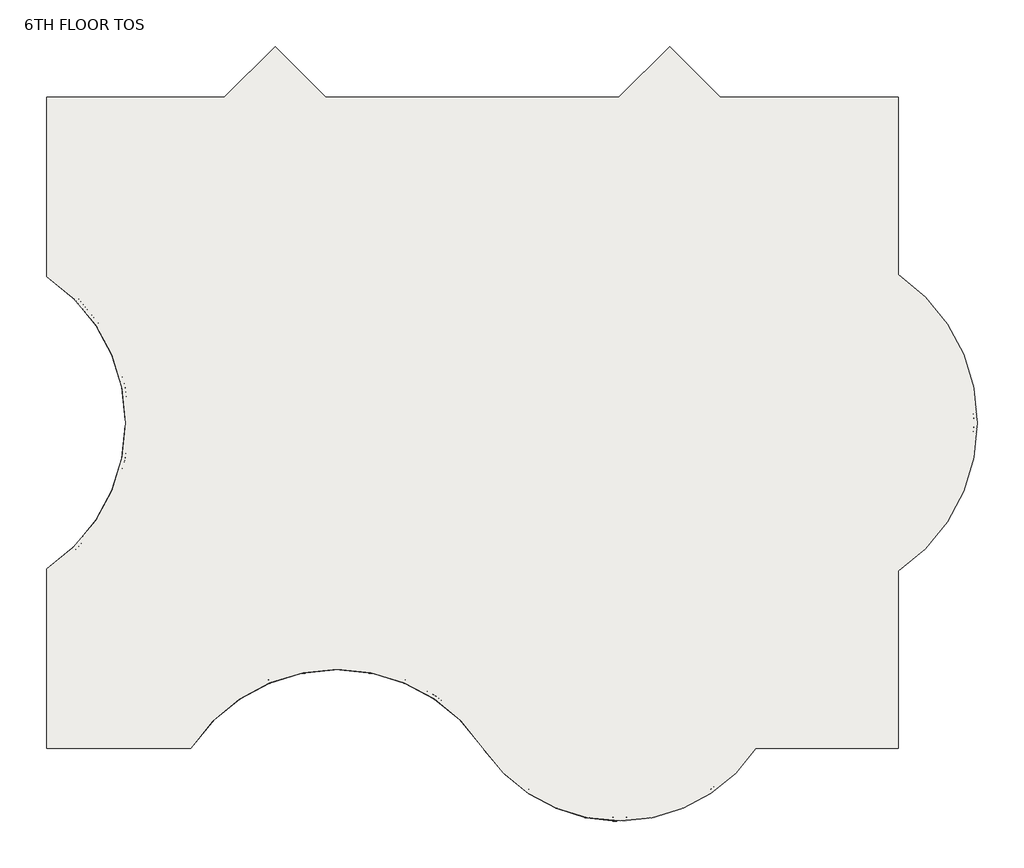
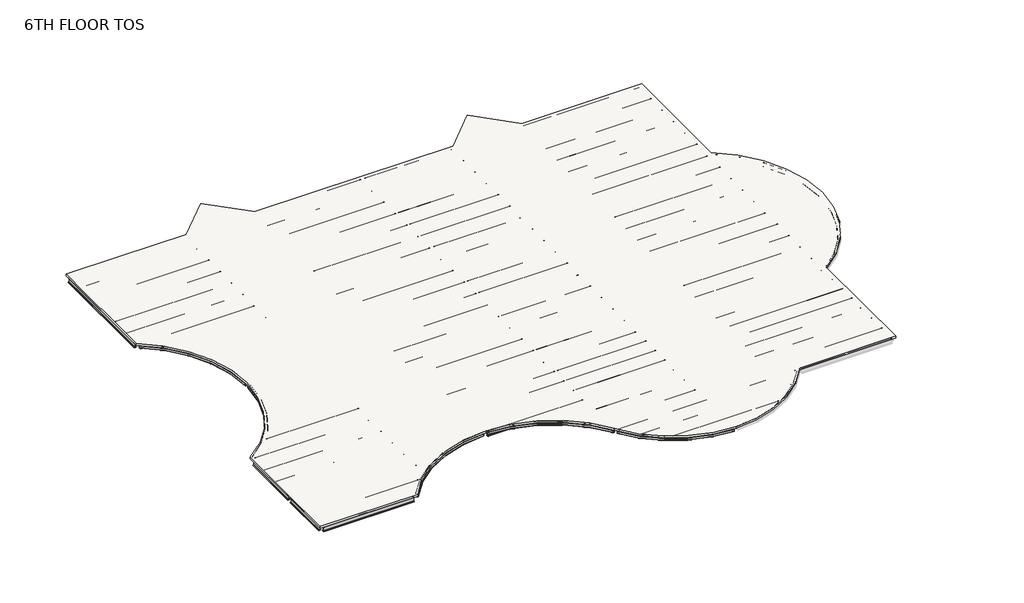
# One storey, part 1 of 2: 86 beams, 1 slab.
"""IFC4 building model written with IfcOpenShell, lengths in millimetres."""

from ifc_helpers import new_model, si_unit, frame, origin, place, context, project, spatial, polyline, circle_curve, transform, mapped, element, save
from ifc_brep_helpers import plane_surface, cylinder_surface, revolved_surface, advanced_brep
from components import m_hss_square_hss203_2x203_2x9_5_914ff4eb, m_hss_square_hss203_2x203_2x9_5_0e3d8e6e, m_hss_square_hss203_2x203_2x9_5_16dc1c03, m_hss_square_hss203_2x203_2x9_5_18346204, m_hss_square_hss203_2x203_2x9_5_d5f1e8c4, ub_universal_beams_ub254x102x28_4e7f3726, ub_universal_beams_ub305x165x40_c4d0385b, ub_universal_beams_ub305x165x40_d3abc31d, ub_universal_beams_ub305x165x40_0c73730f, ub_universal_beams_ub305x165x40_2a963f0c, ub_universal_beams_ub305x165x40_0a5f2f96, ub_universal_beams_ub305x165x40_d1f7c369, ub_universal_beams_ub305x165x40_83d7b7d5, ub_universal_beams_ub305x165x40_729a4ea5, ub_universal_beams_ub305x165x40_71dfa851, ub_universal_beams_ub305x165x40_619b5398, ub_universal_beams_ub305x165x40_c3492db1, ub_universal_beams_ub305x165x40_8f1c350d, ub_universal_beams_ub305x165x40_3afb5f90, ub_universal_beams_ub305x165x40_767d1929, ub_universal_beams_ub305x165x40_5941ca45, ub_universal_beams_ub356x171x51_ef72dcdd, ub_universal_beams_ub356x171x51_7f80702c, ub_universal_beams_ub356x171x51_dfc36663, ub_universal_beams_ub356x171x51_405a853e, ub_universal_beams_ub356x171x51_e47b7055, ub_universal_beams_ub356x171x51_e97f8d2e, ub_universal_beams_ub356x171x51_11d6b780, ub_universal_beams_ub356x171x51_76b2d20b, ub_universal_beams_ub356x171x51_145ecd4b, ub_universal_beams_ub356x171x51_c7dff8d2, ub_universal_beams_ub356x171x51_834c6e34, ub_universal_beams_ub356x171x51_a38b99de, ub_universal_beams_ub356x171x51_d8f4cdde, ub_universal_beams_ub356x171x51_8094f821, ub_universal_beams_ub356x171x51_e661f2e4, ub_universal_beams_ub356x171x51_3ee91673, ub_universal_beams_ub356x171x51_a871b283, ub_universal_beams_ub356x171x51_741bae58

model = new_model("IFC4")

# Units and contexts
model_context = context("Model", 3, world=origin())
ifc_project = project(units=[si_unit("LENGTHUNIT", "METRE", prefix="MILLI")], contexts=[model_context])

# Site, building, storey
site = spatial("IfcSite", under=ifc_project)
building = spatial("IfcBuilding", under=site)
storey = spatial("IfcBuildingStorey", under=building, Name="6TH FLOOR TOS", Elevation=27279.6)

# Beams
placement = place(None, origin())
m_hss_square_hss203_2x203_2x9_5_shape = m_hss_square_hss203_2x203_2x9_5_914ff4eb(model_context)
element("IfcBeam", 1, ObjectType="M_HSS Square : HSS203.2X203.2X9.5", at=placement, inside=storey, context=model_context, shape_type="MappedRepresentation", body=[
    mapped(m_hss_square_hss203_2x203_2x9_5_shape, transform((22710.575, 155.575, 27178.1), x_axis=(-0.552849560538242, 0.8332810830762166, 0.0), y_axis=(-0.8332810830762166, -0.552849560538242, 0.0), z_axis=(0.0, 0.0, 1.0))),
])
m_hss_square_hss203_2x203_2x9_5_2_shape = m_hss_square_hss203_2x203_2x9_5_0e3d8e6e(model_context)
element("IfcBeam", 2, ObjectType="M_HSS Square : HSS203.2X203.2X9.5", at=placement, inside=storey, context=model_context, shape_type="MappedRepresentation", body=[
    mapped(m_hss_square_hss203_2x203_2x9_5_2_shape, transform((155.575, 9299.575, 27178.1), x_axis=(0.8332810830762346, 0.5528495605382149, 0.0), y_axis=(-0.5528495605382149, 0.8332810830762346, 0.0), z_axis=(0.0, 0.0, 1.0))),
])
m_hss_square_hss203_2x203_2x9_5_3_shape = m_hss_square_hss203_2x203_2x9_5_16dc1c03(model_context)
element("IfcBeam", 3, ObjectType="M_HSS Square : HSS203.2X203.2X9.5", at=placement, inside=storey, context=model_context, shape_type="MappedRepresentation", body=[
    mapped(m_hss_square_hss203_2x203_2x9_5_3_shape, transform((155.575, 24539.575, 27178.1), x_axis=(0.8332810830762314, -0.5528495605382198, 0.0), y_axis=(0.5528495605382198, 0.8332810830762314, 0.0), z_axis=(0.0, 0.0, 1.0))),
])
m_hss_square_hss203_2x203_2x9_5_4_shape = m_hss_square_hss203_2x203_2x9_5_18346204(model_context)
element("IfcBeam", 4, ObjectType="M_HSS Square : HSS203.2X203.2X9.5", at=placement, inside=storey, context=model_context, shape_type="MappedRepresentation", body=[
    mapped(m_hss_square_hss203_2x203_2x9_5_4_shape, transform((29734.7266693, -3601.398624, 27178.1), x_axis=(-0.9999968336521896, -0.0025164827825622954, 0.0), y_axis=(0.0025164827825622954, -0.9999968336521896, 0.0), z_axis=(0.0, 0.0, 1.0))),
])
m_hss_square_hss203_2x203_2x9_5_5_shape = m_hss_square_hss203_2x203_2x9_5_d5f1e8c4(model_context)
element("IfcBeam", 5, ObjectType="M_HSS Square : HSS203.2X203.2X9.5", at=placement, inside=storey, context=model_context, shape_type="MappedRepresentation", body=[
    mapped(m_hss_square_hss203_2x203_2x9_5_5_shape, transform((15096.4572854, 4244.5731081, 27178.1), x_axis=(-0.9999997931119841, 0.0006432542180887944, 0.0), y_axis=(-0.0006432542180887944, -0.9999997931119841, 0.0), z_axis=(0.0, 0.0, 1.0))),
])
ub_universal_beams_ub254x102x28_shape = ub_universal_beams_ub254x102x28_4e7f3726(model_context)
element("IfcBeam", 6, ObjectType="UB-Universal Beams : UB254x102x28", at=placement, inside=storey, context=model_context, shape_type="MappedRepresentation", body=[
    mapped(ub_universal_beams_ub254x102x28_shape, transform((9299.575, 3210.915913, 27149.4), x_axis=(0.0, -1.0, 0.0), y_axis=(1.0, 0.0, 0.0), z_axis=(0.0, 0.0, 1.0))),
])
ub_universal_beams_ub305x165x40_shape = ub_universal_beams_ub305x165x40_c4d0385b(model_context)
element("IfcBeam", 7, ObjectType="UB-Universal Beams : UB305x165x40", at=placement, inside=storey, context=model_context, shape_type="MappedRepresentation", body=[
    mapped(ub_universal_beams_ub305x165x40_shape, transform((4727.575, 30635.575, 27127.9), x_axis=(1.0, 0.0, 0.0), y_axis=(0.0, 1.0, 0.0), z_axis=(0.0, 0.0, 1.0))),
])
element("IfcBeam", 8, ObjectType="UB-Universal Beams : UB305x165x40", at=placement, inside=storey, context=model_context, shape_type="MappedRepresentation", body=[
    mapped(ub_universal_beams_ub305x165x40_shape, transform((4727.575, 29111.575, 27127.9), x_axis=(1.0, 0.0, 0.0), y_axis=(0.0, 1.0, 0.0), z_axis=(0.0, 0.0, 1.0))),
])
element("IfcBeam", 9, ObjectType="UB-Universal Beams : UB305x165x40", at=placement, inside=storey, context=model_context, shape_type="MappedRepresentation", body=[
    mapped(ub_universal_beams_ub305x165x40_shape, transform((4727.575, 27587.575, 27127.9), x_axis=(1.0, 0.0, 0.0), y_axis=(0.0, 1.0, 0.0), z_axis=(0.0, 0.0, 1.0))),
])
element("IfcBeam", 10, ObjectType="UB-Universal Beams : UB305x165x40", at=placement, inside=storey, context=model_context, shape_type="MappedRepresentation", body=[
    mapped(ub_universal_beams_ub305x165x40_shape, transform((4727.575, 26063.575, 27127.9), x_axis=(1.0, 0.0, 0.0), y_axis=(0.0, 1.0, 0.0), z_axis=(0.0, 0.0, 1.0))),
])
element("IfcBeam", 11, ObjectType="UB-Universal Beams : UB305x165x40", at=placement, inside=storey, context=model_context, shape_type="MappedRepresentation", body=[
    mapped(ub_universal_beams_ub305x165x40_shape, transform((4727.575, 4727.575, 27127.9), x_axis=(-1.0, 0.0, 0.0), y_axis=(0.0, -1.0, 0.0), z_axis=(0.0, 0.0, 1.0))),
])
element("IfcBeam", 12, ObjectType="UB-Universal Beams : UB305x165x40", at=placement, inside=storey, context=model_context, shape_type="MappedRepresentation", body=[
    mapped(ub_universal_beams_ub305x165x40_shape, transform((4727.575, 6251.575, 27127.9), x_axis=(-1.0, 0.0, 0.0), y_axis=(0.0, -1.0, 0.0), z_axis=(0.0, 0.0, 1.0))),
])
element("IfcBeam", 13, ObjectType="UB-Universal Beams : UB305x165x40", at=placement, inside=storey, context=model_context, shape_type="MappedRepresentation", body=[
    mapped(ub_universal_beams_ub305x165x40_shape, transform((4727.575, 7775.575, 27127.9), x_axis=(-1.0, 0.0, 0.0), y_axis=(0.0, -1.0, 0.0), z_axis=(0.0, 0.0, 1.0))),
])
ub_universal_beams_ub305x165x40_2_shape = ub_universal_beams_ub305x165x40_d3abc31d(model_context)
element("IfcBeam", 14, ObjectType="UB-Universal Beams : UB305x165x40", at=placement, inside=storey, context=model_context, shape_type="MappedRepresentation", body=[
    mapped(ub_universal_beams_ub305x165x40_2_shape, transform((11885.575, 28938.325, 27127.9), x_axis=(1.0, 0.0, 0.0), y_axis=(0.0, 1.0, 0.0), z_axis=(0.0, 0.0, 1.0))),
])
element("IfcBeam", 15, ObjectType="UB-Universal Beams : UB305x165x40", at=placement, inside=storey, context=model_context, shape_type="MappedRepresentation", body=[
    mapped(ub_universal_beams_ub305x165x40_2_shape, transform((11885.575, 27472.075, 27127.9), x_axis=(1.0, 0.0, 0.0), y_axis=(0.0, 1.0, 0.0), z_axis=(0.0, 0.0, 1.0))),
])
element("IfcBeam", 16, ObjectType="UB-Universal Beams : UB305x165x40", at=placement, inside=storey, context=model_context, shape_type="MappedRepresentation", body=[
    mapped(ub_universal_beams_ub305x165x40_2_shape, transform((11885.575, 26005.825, 27127.9), x_axis=(1.0, 0.0, 0.0), y_axis=(0.0, 1.0, 0.0), z_axis=(0.0, 0.0, 1.0))),
])
element("IfcBeam", 17, ObjectType="UB-Universal Beams : UB305x165x40", at=placement, inside=storey, context=model_context, shape_type="MappedRepresentation", body=[
    mapped(ub_universal_beams_ub305x165x40_2_shape, transform((11885.575, 23015.575, 27127.9), x_axis=(1.0, 0.0, 0.0), y_axis=(0.0, 1.0, 0.0), z_axis=(0.0, 0.0, 1.0))),
])
element("IfcBeam", 18, ObjectType="UB-Universal Beams : UB305x165x40", at=placement, inside=storey, context=model_context, shape_type="MappedRepresentation", body=[
    mapped(ub_universal_beams_ub305x165x40_2_shape, transform((11885.575, 21491.575, 27127.9), x_axis=(1.0, 0.0, 0.0), y_axis=(0.0, 1.0, 0.0), z_axis=(0.0, 0.0, 1.0))),
])
element("IfcBeam", 19, ObjectType="UB-Universal Beams : UB305x165x40", at=placement, inside=storey, context=model_context, shape_type="MappedRepresentation", body=[
    mapped(ub_universal_beams_ub305x165x40_2_shape, transform((11885.575, 19967.575, 27127.9), x_axis=(1.0, 0.0, 0.0), y_axis=(0.0, 1.0, 0.0), z_axis=(0.0, 0.0, 1.0))),
])
element("IfcBeam", 20, ObjectType="UB-Universal Beams : UB305x165x40", at=placement, inside=storey, context=model_context, shape_type="MappedRepresentation", body=[
    mapped(ub_universal_beams_ub305x165x40_2_shape, transform((11885.575, 18443.575, 27127.9), x_axis=(1.0, 0.0, 0.0), y_axis=(0.0, 1.0, 0.0), z_axis=(0.0, 0.0, 1.0))),
])
element("IfcBeam", 21, ObjectType="UB-Universal Beams : UB305x165x40", at=placement, inside=storey, context=model_context, shape_type="MappedRepresentation", body=[
    mapped(ub_universal_beams_ub305x165x40_2_shape, transform((11885.575, 15395.575, 27127.9), x_axis=(1.0, 0.0, 0.0), y_axis=(0.0, 1.0, 0.0), z_axis=(0.0, 0.0, 1.0))),
])
element("IfcBeam", 22, ObjectType="UB-Universal Beams : UB305x165x40", at=placement, inside=storey, context=model_context, shape_type="MappedRepresentation", body=[
    mapped(ub_universal_beams_ub305x165x40_2_shape, transform((11885.575, 13871.575, 27127.9), x_axis=(1.0, 0.0, 0.0), y_axis=(0.0, 1.0, 0.0), z_axis=(0.0, 0.0, 1.0))),
])
element("IfcBeam", 23, ObjectType="UB-Universal Beams : UB305x165x40", at=placement, inside=storey, context=model_context, shape_type="MappedRepresentation", body=[
    mapped(ub_universal_beams_ub305x165x40_2_shape, transform((11885.575, 12347.575, 27127.9), x_axis=(1.0, 0.0, 0.0), y_axis=(0.0, 1.0, 0.0), z_axis=(0.0, 0.0, 1.0))),
])
element("IfcBeam", 24, ObjectType="UB-Universal Beams : UB305x165x40", at=placement, inside=storey, context=model_context, shape_type="MappedRepresentation", body=[
    mapped(ub_universal_beams_ub305x165x40_2_shape, transform((11885.575, 10823.575, 27127.9), x_axis=(1.0, 0.0, 0.0), y_axis=(0.0, 1.0, 0.0), z_axis=(0.0, 0.0, 1.0))),
])
element("IfcBeam", 25, ObjectType="UB-Universal Beams : UB305x165x40", at=placement, inside=storey, context=model_context, shape_type="MappedRepresentation", body=[
    mapped(ub_universal_beams_ub305x165x40_2_shape, transform((11885.575, 5026.1840956, 27127.9), x_axis=(-1.0, 0.0, 0.0), y_axis=(0.0, -1.0, 0.0), z_axis=(0.0, 0.0, 1.0))),
])
element("IfcBeam", 26, ObjectType="UB-Universal Beams : UB305x165x40", at=placement, inside=storey, context=model_context, shape_type="MappedRepresentation", body=[
    mapped(ub_universal_beams_ub305x165x40_2_shape, transform((11885.575, 6450.6477304, 27127.9), x_axis=(-1.0, 0.0, 0.0), y_axis=(0.0, -1.0, 0.0), z_axis=(0.0, 0.0, 1.0))),
])
element("IfcBeam", 27, ObjectType="UB-Universal Beams : UB305x165x40", at=placement, inside=storey, context=model_context, shape_type="MappedRepresentation", body=[
    mapped(ub_universal_beams_ub305x165x40_2_shape, transform((11885.575, 7875.1113652, 27127.9), x_axis=(-1.0, 0.0, 0.0), y_axis=(0.0, -1.0, 0.0), z_axis=(0.0, 0.0, 1.0))),
])
ub_universal_beams_ub305x165x40_3_shape = ub_universal_beams_ub305x165x40_0c73730f(model_context)
element("IfcBeam", 28, ObjectType="UB-Universal Beams : UB305x165x40", at=placement, inside=storey, context=model_context, shape_type="MappedRepresentation", body=[
    mapped(ub_universal_beams_ub305x165x40_3_shape, transform((18591.075, 5492.5943214, 27127.9), x_axis=(-1.0, 0.0, 0.0), y_axis=(0.0, -1.0, 0.0), z_axis=(0.0, 0.0, 1.0))),
])
element("IfcBeam", 29, ObjectType="UB-Universal Beams : UB305x165x40", at=placement, inside=storey, context=model_context, shape_type="MappedRepresentation", body=[
    mapped(ub_universal_beams_ub305x165x40_3_shape, transform((18591.075, 6761.5878809, 27127.9), x_axis=(-1.0, 0.0, 0.0), y_axis=(0.0, -1.0, 0.0), z_axis=(0.0, 0.0, 1.0))),
])
element("IfcBeam", 30, ObjectType="UB-Universal Beams : UB305x165x40", at=placement, inside=storey, context=model_context, shape_type="MappedRepresentation", body=[
    mapped(ub_universal_beams_ub305x165x40_3_shape, transform((18591.075, 8030.5814405, 27127.9), x_axis=(-1.0, 0.0, 0.0), y_axis=(0.0, -1.0, 0.0), z_axis=(0.0, 0.0, 1.0))),
])
element("IfcBeam", 31, ObjectType="UB-Universal Beams : UB305x165x40", at=placement, inside=storey, context=model_context, shape_type="MappedRepresentation", body=[
    mapped(ub_universal_beams_ub305x165x40_3_shape, transform((18591.075, 15395.575, 27127.9), x_axis=(1.0, 0.0, 0.0), y_axis=(0.0, 1.0, 0.0), z_axis=(0.0, 0.0, 1.0))),
])
element("IfcBeam", 32, ObjectType="UB-Universal Beams : UB305x165x40", at=placement, inside=storey, context=model_context, shape_type="MappedRepresentation", body=[
    mapped(ub_universal_beams_ub305x165x40_3_shape, transform((18591.075, 13871.575, 27127.9), x_axis=(1.0, 0.0, 0.0), y_axis=(0.0, 1.0, 0.0), z_axis=(0.0, 0.0, 1.0))),
])
element("IfcBeam", 33, ObjectType="UB-Universal Beams : UB305x165x40", at=placement, inside=storey, context=model_context, shape_type="MappedRepresentation", body=[
    mapped(ub_universal_beams_ub305x165x40_3_shape, transform((18591.075, 12347.575, 27127.9), x_axis=(1.0, 0.0, 0.0), y_axis=(0.0, 1.0, 0.0), z_axis=(0.0, 0.0, 1.0))),
])
element("IfcBeam", 34, ObjectType="UB-Universal Beams : UB305x165x40", at=placement, inside=storey, context=model_context, shape_type="MappedRepresentation", body=[
    mapped(ub_universal_beams_ub305x165x40_3_shape, transform((18591.075, 10823.575, 27127.9), x_axis=(1.0, 0.0, 0.0), y_axis=(0.0, 1.0, 0.0), z_axis=(0.0, 0.0, 1.0))),
])
ub_universal_beams_ub305x165x40_4_shape = ub_universal_beams_ub305x165x40_2a963f0c(model_context)
element("IfcBeam", 35, ObjectType="UB-Universal Beams : UB305x165x40", at=placement, inside=storey, context=model_context, shape_type="MappedRepresentation", body=[
    mapped(ub_universal_beams_ub305x165x40_4_shape, transform((26211.075, 15395.575, 27127.9), x_axis=(1.0, 0.0, 0.0), y_axis=(0.0, 1.0, 0.0), z_axis=(0.0, 0.0, 1.0))),
])
element("IfcBeam", 36, ObjectType="UB-Universal Beams : UB305x165x40", at=placement, inside=storey, context=model_context, shape_type="MappedRepresentation", body=[
    mapped(ub_universal_beams_ub305x165x40_4_shape, transform((26211.075, 13871.575, 27127.9), x_axis=(1.0, 0.0, 0.0), y_axis=(0.0, 1.0, 0.0), z_axis=(0.0, 0.0, 1.0))),
])
element("IfcBeam", 37, ObjectType="UB-Universal Beams : UB305x165x40", at=placement, inside=storey, context=model_context, shape_type="MappedRepresentation", body=[
    mapped(ub_universal_beams_ub305x165x40_4_shape, transform((26211.075, 12347.575, 27127.9), x_axis=(1.0, 0.0, 0.0), y_axis=(0.0, 1.0, 0.0), z_axis=(0.0, 0.0, 1.0))),
])
element("IfcBeam", 38, ObjectType="UB-Universal Beams : UB305x165x40", at=placement, inside=storey, context=model_context, shape_type="MappedRepresentation", body=[
    mapped(ub_universal_beams_ub305x165x40_4_shape, transform((26211.075, 10823.575, 27127.9), x_axis=(1.0, 0.0, 0.0), y_axis=(0.0, 1.0, 0.0), z_axis=(0.0, 0.0, 1.0))),
])
element("IfcBeam", 39, ObjectType="UB-Universal Beams : UB305x165x40", at=placement, inside=storey, context=model_context, shape_type="MappedRepresentation", body=[
    mapped(ub_universal_beams_ub305x165x40_4_shape, transform((26211.075, 5508.325, 27127.9), x_axis=(-1.0, 0.0, 0.0), y_axis=(0.0, -1.0, 0.0), z_axis=(0.0, 0.0, 1.0))),
])
element("IfcBeam", 40, ObjectType="UB-Universal Beams : UB305x165x40", at=placement, inside=storey, context=model_context, shape_type="MappedRepresentation", body=[
    mapped(ub_universal_beams_ub305x165x40_4_shape, transform((26211.075, 6772.075, 27127.9), x_axis=(-1.0, 0.0, 0.0), y_axis=(0.0, -1.0, 0.0), z_axis=(0.0, 0.0, 1.0))),
])
element("IfcBeam", 41, ObjectType="UB-Universal Beams : UB305x165x40", at=placement, inside=storey, context=model_context, shape_type="MappedRepresentation", body=[
    mapped(ub_universal_beams_ub305x165x40_4_shape, transform((26211.075, 8035.825, 27127.9), x_axis=(-1.0, 0.0, 0.0), y_axis=(0.0, -1.0, 0.0), z_axis=(0.0, 0.0, 1.0))),
])
element("IfcBeam", 42, ObjectType="UB-Universal Beams : UB305x165x40", at=placement, inside=storey, context=model_context, shape_type="MappedRepresentation", body=[
    mapped(ub_universal_beams_ub305x165x40_4_shape, transform((26211.075, 1518.575, 27127.9), x_axis=(-1.0, 0.0, 0.0), y_axis=(0.0, -1.0, 0.0), z_axis=(0.0, 0.0, 1.0))),
])
element("IfcBeam", 43, ObjectType="UB-Universal Beams : UB305x165x40", at=placement, inside=storey, context=model_context, shape_type="MappedRepresentation", body=[
    mapped(ub_universal_beams_ub305x165x40_4_shape, transform((26211.075, 2881.575, 27127.9), x_axis=(-1.0, 0.0, 0.0), y_axis=(0.0, -1.0, 0.0), z_axis=(0.0, 0.0, 1.0))),
])
ub_universal_beams_ub305x165x40_5_shape = ub_universal_beams_ub305x165x40_0a5f2f96(model_context)
element("IfcBeam", 44, ObjectType="UB-Universal Beams : UB305x165x40", at=placement, inside=storey, context=model_context, shape_type="MappedRepresentation", body=[
    mapped(ub_universal_beams_ub305x165x40_5_shape, transform((29713.575, -2349.0918253, 27127.9), x_axis=(-1.0, 0.0, 0.0), y_axis=(0.0, -1.0, 0.0), z_axis=(0.0, 0.0, 1.0))),
])
ub_universal_beams_ub305x165x40_6_shape = ub_universal_beams_ub305x165x40_d1f7c369(model_context)
element("IfcBeam", 45, ObjectType="UB-Universal Beams : UB305x165x40", at=placement, inside=storey, context=model_context, shape_type="MappedRepresentation", body=[
    mapped(ub_universal_beams_ub305x165x40_6_shape, transform((29713.575, -1096.7584126, 27127.9), x_axis=(-1.0, 0.0, 0.0), y_axis=(0.0, -1.0, 0.0), z_axis=(0.0, 0.0, 1.0))),
])
ub_universal_beams_ub305x165x40_7_shape = ub_universal_beams_ub305x165x40_83d7b7d5(model_context)
element("IfcBeam", 46, ObjectType="UB-Universal Beams : UB305x165x40", at=placement, inside=storey, context=model_context, shape_type="MappedRepresentation", body=[
    mapped(ub_universal_beams_ub305x165x40_7_shape, transform((22157.3041106, 1518.575, 27127.9), x_axis=(-1.0, 0.0, 0.0), y_axis=(0.0, -1.0, 0.0), z_axis=(0.0, 0.0, 1.0))),
])
ub_universal_beams_ub305x165x40_8_shape = ub_universal_beams_ub305x165x40_729a4ea5(model_context)
element("IfcBeam", 47, ObjectType="UB-Universal Beams : UB305x165x40", at=placement, inside=storey, context=model_context, shape_type="MappedRepresentation", body=[
    mapped(ub_universal_beams_ub305x165x40_8_shape, transform((21302.1545844, 2881.575, 27127.9), x_axis=(-1.0, 0.0, 0.0), y_axis=(0.0, -1.0, 0.0), z_axis=(0.0, 0.0, 1.0))),
])
ub_universal_beams_ub305x165x40_9_shape = ub_universal_beams_ub305x165x40_71dfa851(model_context)
element("IfcBeam", 48, ObjectType="UB-Universal Beams : UB305x165x40", at=placement, inside=storey, context=model_context, shape_type="MappedRepresentation", body=[
    mapped(ub_universal_beams_ub305x165x40_9_shape, transform((10511.0323166, 3601.7204608, 27127.9), x_axis=(-1.0, 0.0, 0.0), y_axis=(0.0, -1.0, 0.0), z_axis=(0.0, 0.0, 1.0))),
])
ub_universal_beams_ub305x165x40_10_shape = ub_universal_beams_ub305x165x40_619b5398(model_context)
element("IfcBeam", 49, ObjectType="UB-Universal Beams : UB305x165x40", at=placement, inside=storey, context=model_context, shape_type="MappedRepresentation", body=[
    mapped(ub_universal_beams_ub305x165x40_10_shape, transform((4447.6838282, 1679.575, 27127.9), x_axis=(-1.0, 0.0, 0.0), y_axis=(0.0, -1.0, 0.0), z_axis=(0.0, 0.0, 1.0))),
])
ub_universal_beams_ub305x165x40_11_shape = ub_universal_beams_ub305x165x40_c3492db1(model_context)
element("IfcBeam", 50, ObjectType="UB-Universal Beams : UB305x165x40", at=placement, inside=storey, context=model_context, shape_type="MappedRepresentation", body=[
    mapped(ub_universal_beams_ub305x165x40_11_shape, transform((4727.575, 3203.575, 27127.9), x_axis=(-1.0, 0.0, 0.0), y_axis=(0.0, -1.0, 0.0), z_axis=(0.0, 0.0, 1.0))),
])
ub_universal_beams_ub305x165x40_12_shape = ub_universal_beams_ub305x165x40_8f1c350d(model_context)
element("IfcBeam", 51, ObjectType="UB-Universal Beams : UB305x165x40", at=placement, inside=storey, context=model_context, shape_type="MappedRepresentation", body=[
    mapped(ub_universal_beams_ub305x165x40_12_shape, transform((6708.1318611, 15395.575, 27127.9), x_axis=(1.0, 0.0, 0.0), y_axis=(0.0, 1.0, 0.0), z_axis=(0.0, 0.0, 1.0))),
])
element("IfcBeam", 52, ObjectType="UB-Universal Beams : UB305x165x40", at=placement, inside=storey, context=model_context, shape_type="MappedRepresentation", body=[
    mapped(ub_universal_beams_ub305x165x40_12_shape, transform((6708.1318611, 18443.575, 27127.9), x_axis=(1.0, 0.0, 0.0), y_axis=(0.0, 1.0, 0.0), z_axis=(0.0, 0.0, 1.0))),
])
ub_universal_beams_ub305x165x40_13_shape = ub_universal_beams_ub305x165x40_3afb5f90(model_context)
element("IfcBeam", 53, ObjectType="UB-Universal Beams : UB305x165x40", at=placement, inside=storey, context=model_context, shape_type="MappedRepresentation", body=[
    mapped(ub_universal_beams_ub305x165x40_13_shape, transform((6510.6153272, 13871.575, 27127.9), x_axis=(1.0, 0.0, 0.0), y_axis=(0.0, 1.0, 0.0), z_axis=(0.0, 0.0, 1.0))),
])
element("IfcBeam", 54, ObjectType="UB-Universal Beams : UB305x165x40", at=placement, inside=storey, context=model_context, shape_type="MappedRepresentation", body=[
    mapped(ub_universal_beams_ub305x165x40_13_shape, transform((6510.6153272, 19967.575, 27127.9), x_axis=(1.0, 0.0, 0.0), y_axis=(0.0, 1.0, 0.0), z_axis=(0.0, 0.0, 1.0))),
])
ub_universal_beams_ub305x165x40_14_shape = ub_universal_beams_ub305x165x40_767d1929(model_context)
element("IfcBeam", 55, ObjectType="UB-Universal Beams : UB305x165x40", at=placement, inside=storey, context=model_context, shape_type="MappedRepresentation", body=[
    mapped(ub_universal_beams_ub305x165x40_14_shape, transform((6159.5874928, 12347.575, 27127.9), x_axis=(1.0, 0.0, 0.0), y_axis=(0.0, 1.0, 0.0), z_axis=(0.0, 0.0, 1.0))),
])
element("IfcBeam", 56, ObjectType="UB-Universal Beams : UB305x165x40", at=placement, inside=storey, context=model_context, shape_type="MappedRepresentation", body=[
    mapped(ub_universal_beams_ub305x165x40_14_shape, transform((6159.5874928, 21491.575, 27127.9), x_axis=(1.0, 0.0, 0.0), y_axis=(0.0, 1.0, 0.0), z_axis=(0.0, 0.0, 1.0))),
])
ub_universal_beams_ub305x165x40_15_shape = ub_universal_beams_ub305x165x40_5941ca45(model_context)
element("IfcBeam", 57, ObjectType="UB-Universal Beams : UB305x165x40", at=placement, inside=storey, context=model_context, shape_type="MappedRepresentation", body=[
    mapped(ub_universal_beams_ub305x165x40_15_shape, transform((5607.9405309, 10823.575, 27127.9), x_axis=(1.0, 0.0, 0.0), y_axis=(0.0, 1.0, 0.0), z_axis=(0.0, 0.0, 1.0))),
])
element("IfcBeam", 58, ObjectType="UB-Universal Beams : UB305x165x40", at=placement, inside=storey, context=model_context, shape_type="MappedRepresentation", body=[
    mapped(ub_universal_beams_ub305x165x40_15_shape, transform((5607.9405309, 23015.575, 27127.9), x_axis=(1.0, 0.0, 0.0), y_axis=(0.0, 1.0, 0.0), z_axis=(0.0, 0.0, 1.0))),
])
ub_universal_beams_ub356x171x51_shape = ub_universal_beams_ub356x171x51_ef72dcdd(model_context)
element("IfcBeam", 59, ObjectType="UB-Universal Beams : UB356x171x51", at=placement, inside=storey, context=model_context, shape_type="MappedRepresentation", body=[
    mapped(ub_universal_beams_ub356x171x51_shape, transform((9299.575, 6772.075, 27102.1), x_axis=(0.0, -1.0, 0.0), y_axis=(1.0, 0.0, 0.0), z_axis=(0.0, 0.0, 1.0))),
])
element("IfcBeam", 60, ObjectType="UB-Universal Beams : UB356x171x51", at=placement, inside=storey, context=model_context, shape_type="MappedRepresentation", body=[
    mapped(ub_universal_beams_ub356x171x51_shape, transform((29711.575, 6772.075, 27102.1), x_axis=(0.0, 1.0, 0.0), y_axis=(-1.0, 0.0, 0.0), z_axis=(0.0, 0.0, 1.0))),
])
element("IfcBeam", 61, ObjectType="UB-Universal Beams : UB356x171x51", at=placement, inside=storey, context=model_context, shape_type="MappedRepresentation", body=[
    mapped(ub_universal_beams_ub356x171x51_shape, transform((22710.575, 6772.075, 27102.1), x_axis=(0.0, -1.0, 0.0), y_axis=(1.0, 0.0, 0.0), z_axis=(0.0, 0.0, 1.0))),
])
ub_universal_beams_ub356x171x51_2_shape = ub_universal_beams_ub356x171x51_7f80702c(model_context)
element("IfcBeam", 62, ObjectType="UB-Universal Beams : UB356x171x51", at=placement, inside=storey, context=model_context, shape_type="MappedRepresentation", body=[
    mapped(ub_universal_beams_ub356x171x51_2_shape, transform((3813.075, 155.575, 27102.1), x_axis=(-1.0, 0.0, 0.0), y_axis=(0.0, -1.0, 0.0), z_axis=(0.0, 0.0, 1.0))),
])
ub_universal_beams_ub356x171x51_3_shape = ub_universal_beams_ub356x171x51_dfc36663(model_context)
element("IfcBeam", 63, ObjectType="UB-Universal Beams : UB356x171x51", at=placement, inside=storey, context=model_context, shape_type="MappedRepresentation", body=[
    mapped(ub_universal_beams_ub356x171x51_3_shape, transform((155.575, 2200.075, 27102.1), x_axis=(0.0, 1.0, 0.0), y_axis=(-1.0, 0.0, 0.0), z_axis=(0.0, 0.0, 1.0))),
])
ub_universal_beams_ub356x171x51_4_shape = ub_universal_beams_ub356x171x51_405a853e(model_context)
element("IfcBeam", 64, ObjectType="UB-Universal Beams : UB356x171x51", at=placement, inside=storey, context=model_context, shape_type="MappedRepresentation", body=[
    mapped(ub_universal_beams_ub356x171x51_4_shape, transform((155.575, 6772.075, 27102.1), x_axis=(0.0, 1.0, 0.0), y_axis=(-1.0, 0.0, 0.0), z_axis=(0.0, 0.0, 1.0))),
])
ub_universal_beams_ub356x171x51_5_shape = ub_universal_beams_ub356x171x51_e47b7055(model_context)
element("IfcBeam", 65, ObjectType="UB-Universal Beams : UB356x171x51", at=placement, inside=storey, context=model_context, shape_type="MappedRepresentation", body=[
    mapped(ub_universal_beams_ub356x171x51_5_shape, transform((155.575, 29111.575, 27102.1), x_axis=(0.0, 1.0, 0.0), y_axis=(-1.0, 0.0, 0.0), z_axis=(0.0, 0.0, 1.0))),
])
ub_universal_beams_ub356x171x51_6_shape = ub_universal_beams_ub356x171x51_e97f8d2e(model_context)
element("IfcBeam", 66, ObjectType="UB-Universal Beams : UB356x171x51", at=placement, inside=storey, context=model_context, shape_type="MappedRepresentation", body=[
    mapped(ub_universal_beams_ub356x171x51_6_shape, transform((4727.575, 24539.575, 27102.1), x_axis=(1.0, 0.0, 0.0), y_axis=(0.0, 1.0, 0.0), z_axis=(0.0, 0.0, 1.0))),
])
ub_universal_beams_ub356x171x51_7_shape = ub_universal_beams_ub356x171x51_11d6b780(model_context)
element("IfcBeam", 67, ObjectType="UB-Universal Beams : UB356x171x51", at=placement, inside=storey, context=model_context, shape_type="MappedRepresentation", body=[
    mapped(ub_universal_beams_ub356x171x51_7_shape, transform((11885.575, 24539.575, 27102.1), x_axis=(1.0, 0.0, 0.0), y_axis=(0.0, 1.0, 0.0), z_axis=(0.0, 0.0, 1.0))),
])
element("IfcBeam", 68, ObjectType="UB-Universal Beams : UB356x171x51", at=placement, inside=storey, context=model_context, shape_type="MappedRepresentation", body=[
    mapped(ub_universal_beams_ub356x171x51_7_shape, transform((11885.575, 9299.575, 27102.1), x_axis=(-1.0, 0.0, 0.0), y_axis=(0.0, -1.0, 0.0), z_axis=(0.0, 0.0, 1.0))),
])
element("IfcBeam", 69, ObjectType="UB-Universal Beams : UB356x171x51", at=placement, inside=storey, context=model_context, shape_type="MappedRepresentation", body=[
    mapped(ub_universal_beams_ub356x171x51_7_shape, transform((11885.575, 16919.575, 27102.1), x_axis=(1.0, 0.0, 0.0), y_axis=(0.0, 1.0, 0.0), z_axis=(0.0, 0.0, 1.0))),
])
ub_universal_beams_ub356x171x51_8_shape = ub_universal_beams_ub356x171x51_76b2d20b(model_context)
element("IfcBeam", 70, ObjectType="UB-Universal Beams : UB356x171x51", at=placement, inside=storey, context=model_context, shape_type="MappedRepresentation", body=[
    mapped(ub_universal_beams_ub356x171x51_8_shape, transform((18591.075, 9299.575, 27102.1), x_axis=(-1.0, 0.0, 0.0), y_axis=(0.0, -1.0, 0.0), z_axis=(0.0, 0.0, 1.0))),
])
ub_universal_beams_ub356x171x51_9_shape = ub_universal_beams_ub356x171x51_145ecd4b(model_context)
element("IfcBeam", 71, ObjectType="UB-Universal Beams : UB356x171x51", at=placement, inside=storey, context=model_context, shape_type="MappedRepresentation", body=[
    mapped(ub_universal_beams_ub356x171x51_9_shape, transform((26211.075, 9299.575, 27102.1), x_axis=(-1.0, 0.0, 0.0), y_axis=(0.0, -1.0, 0.0), z_axis=(0.0, 0.0, 1.0))),
])
element("IfcBeam", 72, ObjectType="UB-Universal Beams : UB356x171x51", at=placement, inside=storey, context=model_context, shape_type="MappedRepresentation", body=[
    mapped(ub_universal_beams_ub356x171x51_9_shape, transform((26211.075, 4244.575, 27102.1), x_axis=(-1.0, 0.0, 0.0), y_axis=(0.0, -1.0, 0.0), z_axis=(0.0, 0.0, 1.0))),
])
ub_universal_beams_ub356x171x51_10_shape = ub_universal_beams_ub356x171x51_c7dff8d2(model_context)
element("IfcBeam", 73, ObjectType="UB-Universal Beams : UB356x171x51", at=placement, inside=storey, context=model_context, shape_type="MappedRepresentation", body=[
    mapped(ub_universal_beams_ub356x171x51_10_shape, transform((4727.575, 9299.575, 27102.1), x_axis=(-1.0, 0.0, 0.0), y_axis=(0.0, -1.0, 0.0), z_axis=(0.0, 0.0, 1.0))),
])
ub_universal_beams_ub356x171x51_11_shape = ub_universal_beams_ub356x171x51_834c6e34(model_context)
element("IfcBeam", 74, ObjectType="UB-Universal Beams : UB356x171x51", at=placement, inside=storey, context=model_context, shape_type="MappedRepresentation", body=[
    mapped(ub_universal_beams_ub356x171x51_11_shape, transform((14471.575, 6761.5878809, 27102.1), x_axis=(0.0, -1.0, 0.0), y_axis=(1.0, 0.0, 0.0), z_axis=(0.0, 0.0, 1.0))),
])
ub_universal_beams_ub356x171x51_12_shape = ub_universal_beams_ub356x171x51_a38b99de(model_context)
element("IfcBeam", 75, ObjectType="UB-Universal Beams : UB356x171x51", at=placement, inside=storey, context=model_context, shape_type="MappedRepresentation", body=[
    mapped(ub_universal_beams_ub356x171x51_12_shape, transform((9299.575, 13109.575, 27102.1), x_axis=(0.0, 1.0, 0.0), y_axis=(-1.0, 0.0, 0.0), z_axis=(0.0, 0.0, 1.0))),
])
element("IfcBeam", 76, ObjectType="UB-Universal Beams : UB356x171x51", at=placement, inside=storey, context=model_context, shape_type="MappedRepresentation", body=[
    mapped(ub_universal_beams_ub356x171x51_12_shape, transform((9299.575, 20729.575, 27102.1), x_axis=(0.0, 1.0, 0.0), y_axis=(-1.0, 0.0, 0.0), z_axis=(0.0, 0.0, 1.0))),
])
element("IfcBeam", 77, ObjectType="UB-Universal Beams : UB356x171x51", at=placement, inside=storey, context=model_context, shape_type="MappedRepresentation", body=[
    mapped(ub_universal_beams_ub356x171x51_12_shape, transform((14471.575, 20729.575, 27102.1), x_axis=(0.0, -1.0, 0.0), y_axis=(1.0, 0.0, 0.0), z_axis=(0.0, 0.0, 1.0))),
])
element("IfcBeam", 78, ObjectType="UB-Universal Beams : UB356x171x51", at=placement, inside=storey, context=model_context, shape_type="MappedRepresentation", body=[
    mapped(ub_universal_beams_ub356x171x51_12_shape, transform((14471.575, 13109.575, 27102.1), x_axis=(0.0, -1.0, 0.0), y_axis=(1.0, 0.0, 0.0), z_axis=(0.0, 0.0, 1.0))),
])
element("IfcBeam", 79, ObjectType="UB-Universal Beams : UB356x171x51", at=placement, inside=storey, context=model_context, shape_type="MappedRepresentation", body=[
    mapped(ub_universal_beams_ub356x171x51_12_shape, transform((22710.575, 13109.575, 27102.1), x_axis=(0.0, -1.0, 0.0), y_axis=(1.0, 0.0, 0.0), z_axis=(0.0, 0.0, 1.0))),
])
element("IfcBeam", 80, ObjectType="UB-Universal Beams : UB356x171x51", at=placement, inside=storey, context=model_context, shape_type="MappedRepresentation", body=[
    mapped(ub_universal_beams_ub356x171x51_12_shape, transform((29711.575, 13109.575, 27102.1), x_axis=(0.0, 1.0, 0.0), y_axis=(-1.0, 0.0, 0.0), z_axis=(0.0, 0.0, 1.0))),
])
ub_universal_beams_ub356x171x51_13_shape = ub_universal_beams_ub356x171x51_d8f4cdde(model_context)
element("IfcBeam", 81, ObjectType="UB-Universal Beams : UB356x171x51", at=placement, inside=storey, context=model_context, shape_type="MappedRepresentation", body=[
    mapped(ub_universal_beams_ub356x171x51_13_shape, transform((9299.575, 29111.575, 27102.1), x_axis=(0.0, 1.0, 0.0), y_axis=(-1.0, 0.0, 0.0), z_axis=(0.0, 0.0, 1.0))),
])
ub_universal_beams_ub356x171x51_14_shape = ub_universal_beams_ub356x171x51_8094f821(model_context)
element("IfcBeam", 82, ObjectType="UB-Universal Beams : UB356x171x51", at=placement, inside=storey, context=model_context, shape_type="MappedRepresentation", body=[
    mapped(ub_universal_beams_ub356x171x51_14_shape, transform((6772.075, 16919.575, 27102.1), x_axis=(1.0, 0.0, 0.0), y_axis=(0.0, 1.0, 0.0), z_axis=(0.0, 0.0, 1.0))),
])
ub_universal_beams_ub356x171x51_15_shape = ub_universal_beams_ub356x171x51_e661f2e4(model_context)
element("IfcBeam", 83, ObjectType="UB-Universal Beams : UB356x171x51", at=placement, inside=storey, context=model_context, shape_type="MappedRepresentation", body=[
    mapped(ub_universal_beams_ub356x171x51_15_shape, transform((29713.575, 155.575, 27102.1), x_axis=(-1.0, 0.0, 0.0), y_axis=(0.0, -1.0, 0.0), z_axis=(0.0, 0.0, 1.0))),
])
ub_universal_beams_ub356x171x51_16_shape = ub_universal_beams_ub356x171x51_3ee91673(model_context)
element("IfcBeam", 84, ObjectType="UB-Universal Beams : UB356x171x51", at=placement, inside=storey, context=model_context, shape_type="MappedRepresentation", body=[
    mapped(ub_universal_beams_ub356x171x51_16_shape, transform((18900.575, 4244.575, 27102.1), x_axis=(-1.0, 0.0, 0.0), y_axis=(0.0, -1.0, 0.0), z_axis=(0.0, 0.0, 1.0))),
])
ub_universal_beams_ub356x171x51_17_shape = ub_universal_beams_ub356x171x51_a871b283(model_context)
element("IfcBeam", 85, ObjectType="UB-Universal Beams : UB356x171x51", at=placement, inside=storey, context=model_context, shape_type="MappedRepresentation", body=[
    mapped(ub_universal_beams_ub356x171x51_17_shape, transform((22710.575, 2200.075, 27102.1), x_axis=(0.0, -1.0, 0.0), y_axis=(1.0, 0.0, 0.0), z_axis=(0.0, 0.0, 1.0))),
])
ub_universal_beams_ub356x171x51_18_shape = ub_universal_beams_ub356x171x51_741bae58(model_context)
element("IfcBeam", 86, ObjectType="UB-Universal Beams : UB356x171x51", at=placement, inside=storey, context=model_context, shape_type="MappedRepresentation", body=[
    mapped(ub_universal_beams_ub356x171x51_18_shape, transform((29711.575, 2200.075, 27102.1), x_axis=(0.0, -1.0, 0.0), y_axis=(1.0, 0.0, 0.0), z_axis=(0.0, 0.0, 1.0))),
])

# Slab
element("IfcSlab", 87, ObjectType="152mm Concrete With 50mm Metal Deck", at=placement, inside=storey, context=model_context, shape_type="AdvancedBrep", body=[
    advanced_brep(
    [(69.575, 33769.575, 27279.6), (4244.575, 33769.575, 27279.6), (9263.9526336, 33769.575, 27279.6), (11885.575, 36391.1973664, 27279.6), (14507.1973664, 33769.575, 27279.6), (22710.575, 33769.575, 27279.6), (29675.9526336, 33769.575, 27279.6), (32297.575, 36391.1973664, 27279.6), (34919.1973664, 33769.575, 27279.6), (44113.575, 33769.575, 27279.6), (44113.575, 24585.5849139, 27279.6), (44113.575, 9253.5650861, 27279.6), (44113.575, 4244.575, 27279.6), (44113.575, 69.575, 27279.6), (36762.5616677, 69.575, 27279.6), (29734.9430869, -3687.3983517, 27279.6), (22638.9224102, 108.0154965, 27279.6), (15096.4019655, 4158.5731259, 27279.6), (7516.8644167, 69.575, 27279.6), (69.575, 69.575, 27279.6), (69.575, 4244.575, 27279.6), (69.575, 9345.8644167, 27279.6), (69.575, 24493.2855833, 27279.6), (69.575, 33769.575, 27431.6), (69.575, 24493.2855833, 27431.6), (69.575, 9345.8644167, 27431.6), (69.575, 4244.575, 27431.6), (69.575, 69.575, 27431.6), (7516.8644167, 69.575, 27431.6), (15096.4019655, 4158.5731259, 27431.6), (22638.9128269, 108.0299378, 27431.6), (29734.9430869, -3687.3983517, 27431.6), (36762.5616677, 69.575, 27431.6), (44113.575, 69.575, 27431.6), (44113.575, 4244.575, 27431.6), (44113.575, 9253.5650861, 27431.6), (44113.575, 24585.5849139, 27431.6), (44113.575, 33769.575, 27431.6), (34919.1973664, 33769.575, 27431.6), (32297.575, 36391.1973664, 27431.6), (29675.9526336, 33769.575, 27431.6), (22710.575, 33769.575, 27431.6), (14507.1973664, 33769.575, 27431.6), (11885.575, 36391.1973664, 27431.6), (9263.9526336, 33769.575, 27431.6), (4244.575, 33769.575, 27431.6)],
    [
        (0, 1),
        (1, 2),
        (2, 3),
        (3, 4),
        (4, 5),
        (5, 6),
        (6, 7),
        (7, 8),
        (8, 9),
        (9, 10),
        (10, 11, circle_curve(frame((38972.0016324, 16919.575, 27279.6), z_axis=(0.0, 0.0, -1.0), x_axis=(1.0, 0.0, 0.0)), 9230.5733676)),
        (11, 12),
        (12, 13),
        (13, 14),
        (14, 15, circle_curve(frame((29713.575, 4803.825732, 27279.6), z_axis=(0.0, 0.0, -1.0), x_axis=(1.0, 0.0, 0.0)), 8491.2509699)),
        (15, 16, circle_curve(frame((29713.575, 4803.825732, 27279.6), z_axis=(0.0, 0.0, -1.0), x_axis=(1.0, 0.0, 0.0)), 8491.2509699)),
        (16, 17, circle_curve(frame((15090.575, -4899.9983676, 27279.6), z_axis=(0.0, 0.0, 1.0), x_axis=(1.0, 0.0, 0.0)), 9058.5733676)),
        (17, 18, circle_curve(frame((15090.575, -4899.9983676, 27279.6), z_axis=(0.0, 0.0, 1.0), x_axis=(1.0, 0.0, 0.0)), 9058.5733676)),
        (18, 19),
        (19, 20),
        (20, 21),
        (21, 22, circle_curve(frame((-4899.9983676, 16919.575, 27279.6), z_axis=(0.0, 0.0, 1.0), x_axis=(1.0, 0.0, 0.0)), 9058.5733676)),
        (22, 0),
        (23, 24),
        (24, 25, circle_curve(frame((-4899.9983676, 16919.575, 27431.6), z_axis=(0.0, 0.0, -1.0), x_axis=(1.0, 0.0, 0.0)), 9058.5733676)),
        (25, 26),
        (26, 27),
        (27, 28),
        (28, 29, circle_curve(frame((15090.575, -4899.9983676, 27431.6), z_axis=(0.0, 0.0, -1.0), x_axis=(1.0, 0.0, 0.0)), 9058.5733676)),
        (29, 30, circle_curve(frame((15090.575, -4899.9983676, 27431.6), z_axis=(0.0, 0.0, -1.0), x_axis=(1.0, 0.0, 0.0)), 9058.5733676)),
        (30, 31, circle_curve(frame((29713.575, 4803.825732, 27431.6), z_axis=(0.0, 0.0, 1.0), x_axis=(1.0, 0.0, 0.0)), 8491.2509699)),
        (31, 32, circle_curve(frame((29713.575, 4803.825732, 27431.6), z_axis=(0.0, 0.0, 1.0), x_axis=(1.0, 0.0, 0.0)), 8491.2509699)),
        (32, 33),
        (33, 34),
        (34, 35),
        (35, 36, circle_curve(frame((38972.0016324, 16919.575, 27431.6), z_axis=(0.0, 0.0, 1.0), x_axis=(1.0, 0.0, 0.0)), 9230.5733676)),
        (36, 37),
        (37, 38),
        (38, 39),
        (39, 40),
        (40, 41),
        (41, 42),
        (42, 43),
        (43, 44),
        (44, 45),
        (45, 23),
        (0, 23),
        (45, 1),
        (44, 2),
        (43, 3),
        (42, 4),
        (41, 5),
        (40, 6),
        (39, 7),
        (38, 8),
        (37, 9),
        (36, 10),
        (35, 11),
        (34, 12),
        (33, 13),
        (32, 14),
        (31, 15),
        (30, 16),
        (29, 17),
        (28, 18),
        (27, 19),
        (26, 20),
        (25, 21),
        (24, 22),
    ],
    [
        plane_surface(frame((155.575, 33769.575, 27279.6), z_axis=(0.0, 0.0, -1.0), x_axis=(1.0, 0.0, 0.0))),
        plane_surface(frame((155.575, 33769.575, 27431.6), z_axis=(0.0, 0.0, 1.0), x_axis=(-1.0, 0.0, 0.0))),
        plane_surface(frame((69.575, 33769.575, 27279.6), z_axis=(0.0, 1.0, 0.0), x_axis=(0.0, 0.0, 1.0))),
        plane_surface(frame((4244.575, 33769.575, 27279.6), z_axis=(0.0, 1.0, 0.0), x_axis=(0.0, 0.0, 1.0))),
        plane_surface(frame((9263.9526336, 33769.575, 27279.6), z_axis=(-0.7071067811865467, 0.7071067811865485, 0.0), x_axis=(0.0, 0.0, 1.0))),
        plane_surface(frame((11885.575, 36391.1973664, 27279.6), z_axis=(0.7071067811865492, 0.7071067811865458, 0.0), x_axis=(0.0, 0.0, 1.0))),
        plane_surface(frame((14507.1973664, 33769.575, 27279.6), z_axis=(0.0, 1.0, 0.0), x_axis=(0.0, 0.0, 1.0))),
        plane_surface(frame((22710.575, 33769.575, 27279.6), z_axis=(0.0, 1.0, 0.0), x_axis=(0.0, 0.0, 1.0))),
        plane_surface(frame((29675.9526336, 33769.575, 27279.6), z_axis=(-0.7071067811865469, 0.7071067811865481, 0.0), x_axis=(0.0, 0.0, 1.0))),
        plane_surface(frame((32297.575, 36391.1973664, 27279.6), z_axis=(0.7071067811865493, 0.7071067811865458, 0.0), x_axis=(0.0, 0.0, 1.0))),
        plane_surface(frame((34919.1973664, 33769.575, 27279.6), z_axis=(0.0, 1.0, 0.0), x_axis=(0.0, 0.0, 1.0))),
        plane_surface(frame((44113.575, 33769.575, 27279.6), z_axis=(1.0, 0.0, 0.0), x_axis=(0.0, 0.0, 1.0))),
        cylinder_surface(frame((38972.0016324, 16919.575, 27431.6), z_axis=(0.0, 0.0, -1.0), x_axis=(1.0, 0.0, 0.0)), 9230.5733676),
        plane_surface(frame((44113.575, 9253.5650861, 27279.6), z_axis=(1.0, 0.0, 0.0), x_axis=(0.0, 0.0, 1.0))),
        plane_surface(frame((44113.575, 4244.575, 27279.6), z_axis=(1.0, 0.0, 0.0), x_axis=(0.0, 0.0, 1.0))),
        plane_surface(frame((44113.575, 69.575, 27279.6), z_axis=(0.0, -1.0, 0.0), x_axis=(0.0, 0.0, 1.0))),
        cylinder_surface(frame((29713.575, 4803.825732, 27431.6), z_axis=(0.0, 0.0, -1.0), x_axis=(1.0, 0.0, 0.0)), 8491.2509699),
        revolved_surface(polyline([(24149.1483676, -4899.9983676, 27431.6), (24149.1483676, -4899.9983676, 27279.6)]), (15090.575, -4899.9983676, 27431.6), (0.0, 0.0, 1.0)),
        plane_surface(frame((7516.8644167, 69.575, 27279.6), z_axis=(0.0, -1.0, 0.0), x_axis=(0.0, 0.0, 1.0))),
        plane_surface(frame((69.575, 69.575, 27279.6), z_axis=(-1.0, 0.0, 0.0), x_axis=(0.0, 0.0, 1.0))),
        plane_surface(frame((69.575, 4244.575, 27279.6), z_axis=(-1.0, 0.0, 0.0), x_axis=(0.0, 0.0, 1.0))),
        revolved_surface(polyline([(4158.575, 16919.575, 27431.6), (4158.575, 16919.575, 27279.6)]), (-4899.9983676, 16919.575, 27431.6), (0.0, 0.0, 1.0)),
        plane_surface(frame((69.575, 24493.2855833, 27279.6), z_axis=(-1.0, 0.0, 0.0), x_axis=(0.0, 0.0, 1.0))),
    ],
    [
        (0, [[1, 2, 3, 4, 5, 6, 7, 8, 9, 10, 11, 12, 13, 14, 15, 16, 17, 18, 19, 20, 21, 22, 23]]),
        (1, [[24, 25, 26, 27, 28, 29, 30, 31, 32, 33, 34, 35, 36, 37, 38, 39, 40, 41, 42, 43, 44, 45, 46]]),
        (2, [[-1, 47, -46, 48]]),
        (3, [[-2, -48, -45, 49]]),
        (4, [[-3, -49, -44, 50]]),
        (5, [[-4, -50, -43, 51]]),
        (6, [[-5, -51, -42, 52]]),
        (7, [[-6, -52, -41, 53]]),
        (8, [[-7, -53, -40, 54]]),
        (9, [[-8, -54, -39, 55]]),
        (10, [[-9, -55, -38, 56]]),
        (11, [[-10, -56, -37, 57]]),
        (12, [[-11, -57, -36, 58]]),
        (13, [[-12, -58, -35, 59]]),
        (14, [[-13, -59, -34, 60]]),
        (15, [[-14, -60, -33, 61]]),
        (16, [[-15, -61, -32, 62]]),
        (16, [[-16, -62, -31, 63]]),
        (17, [[-17, -63, -30, 64]]),
        (17, [[-18, -64, -29, 65]]),
        (18, [[-19, -65, -28, 66]]),
        (19, [[-20, -66, -27, 67]]),
        (20, [[-21, -67, -26, 68]]),
        (21, [[-22, -68, -25, 69]]),
        (22, [[-23, -69, -24, -47]]),
    ],
),
])

save(model, "model.ifc")
